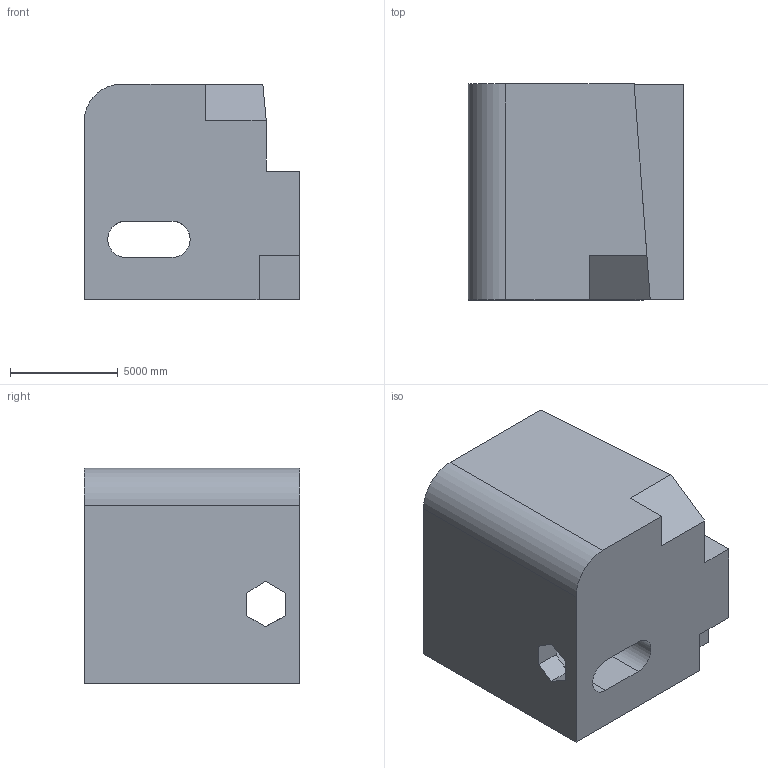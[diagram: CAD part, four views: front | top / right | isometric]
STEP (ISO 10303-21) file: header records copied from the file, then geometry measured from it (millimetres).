
FILE_DESCRIPTION (( 'STEP AP203' ), '1' );
FILE_NAME ('1534.STEP', '2022-08-18T15:07:46', ( 'user' ), ( '' ), 'SwSTEP 2.0', 'SolidWorks 2021', '' );
FILE_SCHEMA (( 'CONFIG_CONTROL_DESIGN' ));
Length unit declared in the file: centimetre
Products named in the file (1): 1534
Bounding box: 10000 x 10000 x 10000 mm (x, y, z)
Volume: 823335867879.2 mm3; surface area: 694382150.1 mm2
Topology: 1 solids, 1 shells, 27 faces, 81 edges, 54 vertices
Faces by surface type: plane 24, cylinder 3
Entity records: 994 total; most frequent: CARTESIAN_POINT 175, ORIENTED_EDGE 162, DIRECTION 143, EDGE_CURVE 81, VECTOR 67, LINE 67, VERTEX_POINT 54, AXIS2_PLACEMENT_3D 38
